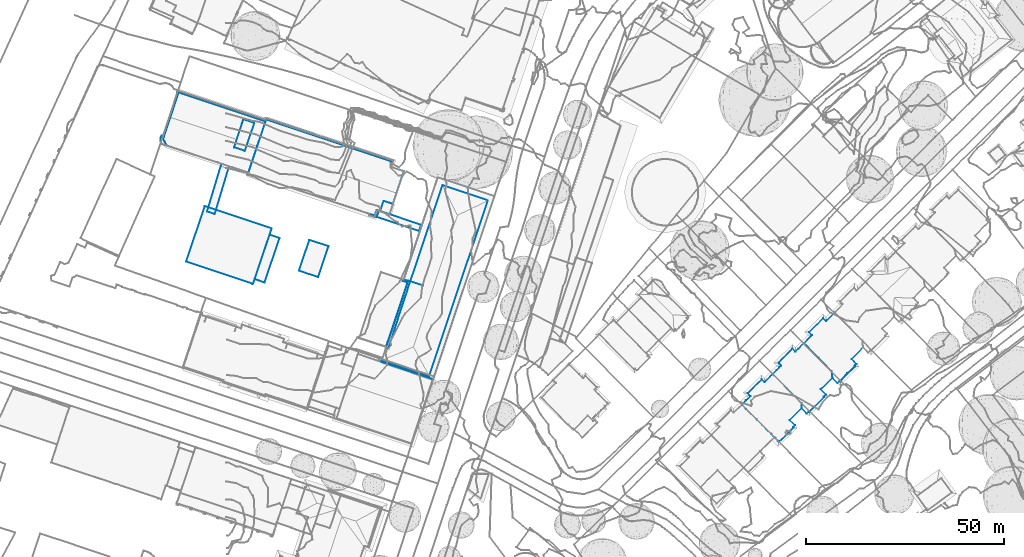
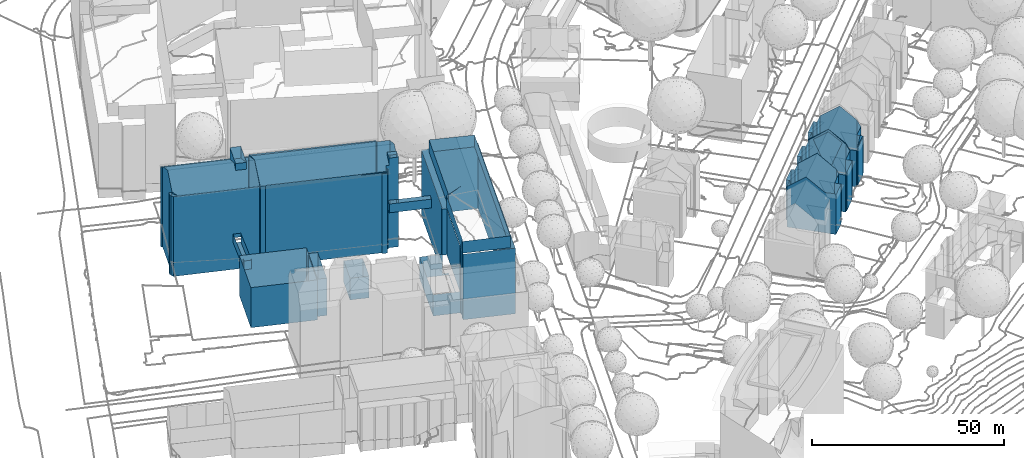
# Not in any storey, part 22 of 494: 8 walls.
"""IFC2X3 model written with IfcOpenShell, lengths in metres."""

from ifc_helpers import new_model, si_unit, frame, origin_with_axes, place, context, subcontext, project, faceted_brep, element, save


model = new_model("IFC2X3")

# Units and contexts
model_context = context("Model", 3, precision=1e-05, world=origin_with_axes())
body_context = subcontext(model_context, "Body", "Model", "MODEL_VIEW")
ifc_project = project(units=[si_unit("AREAUNIT", "SQUARE_METRE"), si_unit("LENGTHUNIT", "METRE")], contexts=[model_context])

# Walls
wall_1_placement = place(None, frame((-17.4142679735, 188.431416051, 525.0686), z_axis=(0.0, 0.0, 1.0), x_axis=(1.0, 0.0, 0.0)))
element("IfcWall", 1, at=wall_1_placement, Name="Wall 0", context=body_context, shape_type="Brep", body=[
    faceted_brep([(1.0260000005, -0.8104999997, 25.3406), (1.0260000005, -0.8104999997, 25.6706), (0.7120000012, -0.0760999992, 25.9806), (0.7120000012, -0.0760999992, 25.3406), (0.0, 0.0, 25.3406), (0.2430000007, 0.6953999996, 25.3406), (0.0, 0.0, 0.0), (0.0370000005, -0.7274999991, 25.3406), (0.0370000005, -0.7274999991, 0.0), (22.0100000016, -9.2381999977, 25.2986), (21.9780000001, -9.2274999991, 25.2986), (22.0100000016, -9.2381999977, 18.9742), (22.0100000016, -9.2381999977, 12.6488), (22.0100000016, -9.2381999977, 0.0), (21.9200000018, -9.2088999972, 25.2986), (21.9200000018, -9.2088999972, 15.8115), (21.9200000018, -9.2088999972, 6.3244), (21.9197999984, -9.2088999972, 0.0), (13.6959999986, -19.1014999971, 11.2299), (11.754999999, -18.5126999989, 11.2299), (13.6959999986, -19.1014999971, 8.4302), (17.3339999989, -7.0936999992, 11.2299), (17.3339999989, -7.0936999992, 8.4302), (15.4070000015, -6.4560000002, 11.2299), (11.754999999, -18.5126999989, 8.4302), (18.561999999, -2.2899999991, 29.9971), (19.2309999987, -0.2889999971, 28.9103), (18.561999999, -2.2899999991, 27.8094), (20.9279999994, 4.7832000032, 29.9972), (20.8229999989, 4.4698000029, 26.3665), (20.9279999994, 4.7832000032, 26.1975), (21.311999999, -3.2098999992, 29.9971), (21.311999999, -3.2098999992, 27.8074), (23.6779999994, 3.8633000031, 26.1965), (23.6779999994, 3.8633000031, 29.9972), (21.9809999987, -1.2088999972, 28.9083), (22.0329999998, 4.4131000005, 26.1975), (4.5980000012, 11.5391000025, 25.3406), (4.1920000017, 11.6749000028, 25.3406), (4.5980000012, 11.5391000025, 0.0), (26.6009999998, 5.0479000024, 0.0), (26.6009999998, 5.0479000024, 11.068), (26.7699999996, 4.9922000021, 25.2986), (26.7701000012, 4.9923, 12.6488), (26.7701000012, 4.9923, 18.9742), (26.7699999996, 4.9922000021, 6.3244), (26.7699999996, 4.9922000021, 0.0), (4.3370000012, 12.1456000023, 0.0), (4.3370000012, 12.1456000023, 25.3406), (4.4739999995, 12.0997000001, 0.0), (4.4739999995, 12.0996000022, 25.3406), (4.1920000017, 11.6749000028, 0.0), (4.438000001, 11.9902999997, 0.0), (4.5980000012, 11.5391000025, 25.5765), (26.5080000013, 4.2090000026, 25.5726), (1.2349999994, -1.1053999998, 25.3406), (1.5100000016, -1.4959999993, 25.3766), (1.2349999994, -1.1053999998, 25.5606), (0.6290000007, 0.5665000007, 25.3406), (0.2430000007, 0.6953999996, 0.0), (0.8969999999, 0.4776000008, 0.0), (0.6290000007, 0.5665000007, 0.0), (0.8969999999, 0.4776000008, 25.3406), (0.3359999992, -1.4696999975, 0.0), (0.3359999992, -1.4696999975, 25.3406), (0.125, -0.9461999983, 0.0), (0.125, -0.9461999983, 25.3406), (0.8969999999, 0.4776000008, 26.2815), (2.512000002, 5.3057000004, 28.9223), (2.512000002, 5.3057000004, 0.0), (22.0029999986, -8.9588999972, 25.2986), (22.1000000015, -8.6708999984, 0.0), (22.0029999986, -8.9608999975, 0.0), (22.1000000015, -8.6708999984, 25.3396), (26.5040000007, 4.755900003, 25.2986), (26.4719999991, 4.6592000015, 25.3076), (26.6009999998, 5.0479000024, 25.2986), (26.4719999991, 4.6592000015, 0.0), (21.7230000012, 6.2393000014, 0.0), (4.438000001, 11.9902999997, 25.3406), (21.7230000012, 6.2393000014, 25.3076), (26.6739999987, 4.7041000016, 25.2986), (26.5080000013, 4.2090000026, 25.3406), (24.4219999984, -2.0253999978, 28.9062), (26.5080000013, 4.2090000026, 0.0), (24.4219999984, -2.0252999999, 0.0), (26.6739999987, 4.7041000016, 0.0), (22.2760000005, -8.4432999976, 25.3766), (22.0929999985, -8.9891999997, 25.2986), (22.2760000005, -8.4432999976, 0.0), (22.0929999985, -8.9891999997, 0.0), (12.7789999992, -5.5868999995, 25.3346), (12.7789999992, -5.5868999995, 0.0), (15.4070000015, -6.4560000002, 8.4302), (1.3909999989, -1.8182999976, 0.0), (1.9299999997, -1.9969999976, 25.3616), (1.3909999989, -1.8182999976, 25.3626), (1.2199999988, -1.7616999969, 25.3406), (1.2199999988, -1.7616999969, 0.0)], [[[0, 1, 2]], [[2, 3, 0]], [[4, 5, 6]], [[7, 4, 8]], [[9, 10, 11]], [[12, 10, 13]], [[14, 15, 10]], [[16, 10, 15]], [[16, 17, 10]], [[10, 17, 13]], [[18, 19, 20]], [[21, 18, 22]], [[19, 23, 24]], [[25, 26, 27]], [[26, 25, 28]], [[29, 28, 30]], [[28, 29, 26]], [[31, 27, 32]], [[33, 34, 35]], [[35, 31, 32]], [[31, 35, 34]], [[30, 28, 36]], [[36, 34, 33]], [[34, 36, 28]], [[37, 38, 39]], [[40, 41, 42]], [[43, 40, 44]], [[45, 46, 40]], [[47, 48, 49]], [[50, 49, 48]], [[38, 47, 51]], [[47, 38, 48]], [[52, 49, 50]], [[53, 54, 37]], [[55, 56, 57]], [[1, 0, 55]], [[1, 55, 57]], [[5, 58, 59]], [[60, 61, 62]], [[63, 64, 65]], [[7, 8, 66]], [[67, 68, 62]], [[67, 3, 2]], [[3, 67, 62]], [[68, 60, 62]], [[37, 60, 68]], [[37, 69, 60]], [[69, 37, 39]], [[37, 68, 53]], [[14, 70, 15]], [[15, 71, 16]], [[17, 16, 72]], [[73, 71, 15]], [[15, 70, 73]], [[72, 16, 71]], [[74, 41, 75]], [[41, 74, 76]], [[77, 41, 40]], [[41, 77, 75]], [[78, 52, 79]], [[80, 75, 78]], [[77, 78, 75]], [[78, 79, 80]], [[44, 42, 81]], [[82, 54, 83]], [[81, 82, 44]], [[43, 44, 83]], [[84, 45, 85]], [[86, 46, 45]], [[84, 86, 45]], [[85, 45, 43]], [[83, 44, 82]], [[83, 87, 11]], [[88, 9, 11]], [[88, 11, 87]], [[83, 11, 12]], [[89, 85, 12]], [[90, 12, 13]], [[12, 90, 89]], [[85, 83, 12]], [[83, 85, 43]], [[21, 91, 23]], [[91, 21, 73]], [[73, 21, 71]], [[71, 22, 92]], [[22, 71, 21]], [[93, 92, 22]], [[94, 92, 93]], [[93, 23, 94]], [[95, 96, 97]], [[64, 63, 97]], [[95, 97, 94]], [[95, 23, 91]], [[95, 94, 23]], [[94, 97, 98]], [[5, 59, 6]], [[4, 6, 8]], [[12, 11, 10]], [[19, 24, 20]], [[18, 20, 22]], [[23, 93, 24]], [[25, 27, 31]], [[38, 51, 39]], [[76, 42, 41]], [[40, 42, 44]], [[43, 45, 40]], [[50, 79, 52]], [[54, 82, 37]], [[58, 61, 59]], [[61, 58, 62]], [[64, 66, 65]], [[8, 65, 66]], [[63, 98, 97]]]),
])
wall_2_placement = place(None, frame((-10.9342679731, 157.2918160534, 524.6136), z_axis=(0.0, 0.0, 1.0), x_axis=(1.0, 0.0, 0.0)))
element("IfcWall", 2, at=wall_2_placement, Name="Wall 0", context=body_context, shape_type="Brep", body=[
    faceted_brep([(21.2219999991, 6.7558999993, 12.0449), (23.5460000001, 5.9354999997, 12.0449), (21.2219999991, 6.7558999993, 0.176), (21.2390000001, 6.8037, 12.0449), (21.2390000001, 6.8037, 0.176), (21.0749999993, 6.8594000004, 12.0449), (21.0749999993, 6.8594000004, 0.176), (19.7899999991, -5.2871000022, 12.0449), (23.5460000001, 5.9354999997, 0.176), (17.2980000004, -4.4092000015, 12.0449), (17.2980000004, -4.4092000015, 12.7548), (16.8500000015, -5.6377000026, 12.7548), (16.8500000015, -5.6377000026, 0.0), (17.2980000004, -4.4092000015, 0.176), (17.2980000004, -4.4092000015, 0.0), (4.6970000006, 14.0351999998, 12.7548), (21.5859999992, 8.3838, 12.7548), (4.6970000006, 14.0351999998, 0.0001), (0.0, 0.0, 12.7548), (0.0, 0.0, 0.0), (19.7899999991, -5.2871000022, 0.176), (21.5859999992, 8.3838, 0.0)], [[[0, 1, 2]], [[3, 0, 4]], [[5, 3, 6]], [[1, 7, 8]], [[9, 10, 11]], [[9, 12, 13]], [[13, 12, 14]], [[15, 16, 17]], [[18, 15, 19]], [[11, 18, 12]], [[9, 20, 7]], [[16, 5, 21]], [[5, 16, 10]], [[21, 6, 14]], [[10, 9, 5]], [[13, 14, 6]], [[1, 8, 2]], [[0, 2, 4]], [[3, 4, 6]], [[7, 20, 8]], [[11, 12, 9]], [[16, 21, 17]], [[15, 17, 19]], [[18, 19, 12]], [[13, 20, 9]], [[5, 6, 21]]]),
])
wall_3_placement = place(None, frame((4.678732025, 179.4422160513, 524.9256), z_axis=(0.0, 0.0, 1.0), x_axis=(1.0, 0.0, 0.0)))
element("IfcWall", 3, at=wall_3_placement, Name="Wall 0", context=body_context, shape_type="Brep", body=[
    faceted_brep([(43.6950000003, -12.8622999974, 15.3225), (43.1650000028, -14.4452999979, 15.3225), (43.6950000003, -12.8622999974, 12.5228), (32.5140000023, -10.8808999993, 15.3225), (43.1650000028, -14.4452999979, 12.5228), (36.6060000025, -7.6074000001, 28.7292), (35.7380000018, -10.1992000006, 15.3225), (36.6060000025, -7.6074000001, 0.238), (35.7380000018, -10.1992000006, 28.7292), (35.7380000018, -10.1992000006, 12.5228), (35.7380000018, -10.1992000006, 0.238), (36.1120000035, 1.7266000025, 25.3996), (36.1120000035, 1.7266000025, 26.2385), (39.3370000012, 0.6474000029, 26.2385), (36.1120000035, 1.7266000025, 1.0749), (39.3370000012, 0.6474000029, 0.0), (36.1120000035, 1.7266000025, 0.0), (36.7360000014, 3.3368999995, 25.3996), (36.2010000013, 1.7187000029, 25.3996), (36.7360000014, 3.3368999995, 1.0749), (36.6740000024, 1.5516999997, 25.3996), (36.6740000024, 1.5516999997, 1.0749), (36.2010000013, 1.7187000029, 1.0749), (4.6790000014, 13.9805000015, 19.3382), (12.143000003, 11.5, 25.4156), (4.6790000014, 13.9805000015, 13.2498), (4.6790000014, 13.9805000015, 7.1623), (11.4680000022, 11.7236000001, 1.0749), (4.6790000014, 13.9805000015, 1.0749), (23.1359999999, 7.8456999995, 25.3996), (36.5380000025, 3.0, 25.3996), (36.5380000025, 3.0, 25.7095), (36.5380000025, 3.0, 1.0749), (36.5380000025, 3.0, 0.0), (4.5810000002, 13.6933000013, 25.9056), (4.5810000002, 13.6933000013, 25.4416), (4.5810000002, 13.6933000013, 1.0749), (4.5810000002, 13.6933000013, 0.0), (36.5780000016, -7.5986000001, 27.7033), (34.2250000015, -6.811499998, 27.7033), (34.2250000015, -6.811499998, 28.7292), (36.5780000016, -7.5986000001, 0.238), (34.2250000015, -6.811499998, 0.0), (36.5780000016, -7.5986000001, 0.0), (1.3440000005, -0.3779000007, 25.7406), (1.3570000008, -0.3407999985, 12.8788), (1.3570000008, -0.3407999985, 19.3192), (1.3570000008, -0.3407999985, 6.4094), (1.3440000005, -0.3779000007, 0.0), (1.3570000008, -0.3407999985, 0.0), (1.325000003, -0.4375, 25.7096), (1.325000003, -0.4375, 0.0), (0.0, 0.0, 0.0), (0.0, 0.0, 25.7096), (30.7270000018, -10.1532999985, -0.007), (30.6080000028, -10.5058999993, -0.007), (30.6080000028, -10.5058999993, 25.4025), (31.9560000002, -10.9550999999, -0.007), (31.9560000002, -10.9550999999, 25.4005), (32.5310000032, -9.2372999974, 25.4005), (32.5310000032, -9.2372999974, -0.007), (33.0109999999, -9.3974999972, 12.5228), (33.0109999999, -9.3974999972, 15.3225), (33.0109999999, -9.3974999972, -0.007), (33.0109999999, -9.3974999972, 25.3995), (32.0090000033, -10.5331999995, 25.7095), (22.4830000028, -7.3983999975, 25.4126), (32.0090000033, -10.5331999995, 25.3995), (32.4850000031, -9.1112999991, 25.3995), (32.4850000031, -9.1112999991, 26.4644), (32.5140000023, -10.8808999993, 12.5228), (33.3580000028, -9.4032999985, 26.4644), (33.3580000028, -9.4032999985, 28.7292), (34.2250000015, -6.811499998, 0.238), (33.3580000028, -9.4032999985, 0.0), (33.3580000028, -9.4032999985, 0.238), (33.0440000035, -9.2987999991, 12.5228), (33.0440000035, -9.2987999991, 0.0), (33.0440000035, -9.2987999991, 25.3995), (33.0440000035, -9.2987999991, 15.3225), (37.512000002, -4.8085999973, 0.0), (37.512000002, -4.8085999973, 29.0332), (21.8880000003, 8.2607000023, 1.0749), (35.3289999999, 3.7930000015, 1.0749), (35.3289999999, 3.7930000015, 25.3996), (0.1830000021, 0.5459000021, 0.0), (2.3289999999, 6.9638999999, 0.0), (0.1830000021, 0.5459000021, 25.9695), (2.3289999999, 6.9638999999, 29.0492), (4.6790000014, 13.9805000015, 25.4256), (30.7270000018, -10.1532999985, 12.6978), (30.7270000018, -10.1532999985, 25.4015), (22.4830000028, -7.3983999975, 0.0), (2.1290000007, -0.5986000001, 25.7586), (1.3570000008, -0.3407999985, 25.7586), (22.4830000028, -7.3983999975, 25.7095)], [[[0, 1, 2]], [[1, 3, 4]], [[5, 6, 7]], [[6, 5, 8]], [[9, 10, 7]], [[6, 0, 9]], [[11, 12, 13]], [[11, 13, 14]], [[14, 15, 16]], [[17, 18, 19]], [[20, 11, 21]], [[18, 20, 22]], [[23, 24, 25]], [[26, 27, 28]], [[24, 29, 27]], [[30, 31, 12]], [[12, 11, 30]], [[32, 14, 33]], [[34, 31, 35]], [[36, 32, 37]], [[38, 39, 40]], [[38, 5, 7]], [[5, 38, 40]], [[38, 7, 41]], [[41, 42, 43]], [[44, 45, 46]], [[45, 44, 47]], [[44, 48, 47]], [[47, 48, 49]], [[48, 50, 51]], [[52, 50, 53]], [[52, 51, 50]], [[54, 55, 56]], [[57, 58, 55]], [[56, 55, 58]], [[59, 57, 60]], [[59, 58, 57]], [[61, 62, 59]], [[63, 61, 60]], [[64, 59, 62]], [[65, 66, 67]], [[68, 69, 67]], [[65, 67, 69]], [[3, 61, 70]], [[71, 72, 39]], [[40, 39, 72]], [[42, 73, 74]], [[75, 74, 73]], [[76, 61, 77]], [[78, 62, 79]], [[10, 9, 75]], [[9, 76, 75]], [[75, 77, 74]], [[77, 75, 76]], [[8, 72, 71]], [[6, 71, 79]], [[71, 6, 8]], [[78, 69, 68]], [[69, 78, 71]], [[78, 79, 71]], [[80, 41, 43]], [[13, 80, 15]], [[13, 81, 38]], [[38, 41, 13]], [[13, 41, 80]], [[82, 29, 83]], [[19, 83, 17]], [[83, 29, 84]], [[85, 52, 53]], [[25, 86, 53]], [[85, 53, 86]], [[36, 37, 86]], [[86, 26, 36]], [[25, 53, 87]], [[88, 35, 23]], [[35, 88, 34]], [[35, 89, 23]], [[36, 26, 28]], [[25, 87, 23]], [[25, 26, 86]], [[88, 23, 87]], [[90, 91, 66]], [[90, 92, 54]], [[45, 92, 90]], [[90, 66, 45]], [[93, 46, 66]], [[94, 46, 93]], [[46, 45, 66]], [[49, 92, 47]], [[45, 47, 92]], [[93, 66, 95]], [[1, 4, 2]], [[3, 70, 4]], [[6, 9, 7]], [[0, 2, 9]], [[13, 15, 14]], [[18, 22, 19]], [[11, 14, 21]], [[20, 21, 22]], [[27, 29, 82]], [[89, 24, 23]], [[24, 27, 25]], [[26, 25, 27]], [[14, 16, 33]], [[31, 30, 35]], [[32, 33, 37]], [[73, 42, 41]], [[46, 94, 44]], [[50, 48, 44]], [[56, 90, 54]], [[90, 56, 91]], [[61, 59, 60]], [[95, 66, 65]], [[62, 61, 3]], [[61, 63, 77]], [[64, 62, 78]], [[83, 84, 17]]]),
])
wall_4_placement = place(None, frame((32.7697320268, 138.0096160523, 524.7246), z_axis=(0.0, 0.0, 1.0), x_axis=(1.0, 0.0, 0.0)))
element("IfcWall", 4, at=wall_4_placement, Name="Wall 0", context=body_context, shape_type="Brep", body=[
    faceted_brep([(19.8390000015, 40.557599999, 21.3649), (34.1330000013, 35.7822000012, 21.3649), (19.8390000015, 40.557599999, 0.5129), (10.9439999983, 14.4228000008, 21.3649), (11.0590000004, 14.7666000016, 21.3649), (10.9439999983, 14.4228000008, 6.7613), (12.1739999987, 14.0106999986, 21.3649), (12.1739999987, 14.0106999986, 6.7613), (6.7419999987, -2.2226999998, 21.3649), (6.7419999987, -2.2226999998, 6.7613), (21.006000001, 38.5467999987, 25.2756), (32.4679999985, 34.7118999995, 25.1146), (21.006000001, 38.5467999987, 21.3649), (17.6440000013, -9.5909000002, 25.1145), (5.6229999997, -5.5694000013, 21.3649), (17.6440000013, -9.5909000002, 21.3649), (0.0, 0.0, 6.7613), (5.4600000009, 16.6367000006, 6.7613), (0.0, 0.0, 0.0), (7.3539999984, -2.6719000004, 0.5129), (6.7589999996, -2.4785000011, 0.5129), (7.3539999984, -2.6719000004, 0.0), (12.8390000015, 14.2743999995, 0.5129), (12.8390000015, 14.2743999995, 0.0), (11.2410000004, 14.7910000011, 0.5129), (11.2410000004, 14.7910000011, 0.0), (11.2149999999, 14.7138000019, 0.0), (11.2149999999, 14.7138000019, 21.3649), (5.4600000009, 16.6367000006, 0.0), (11.0590000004, 14.7666000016, 6.7613), (6.8339999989, -2.2529999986, 21.3649), (6.8339999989, -2.2529999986, 0.0), (5.8159999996, -4.9932000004, 21.3649), (5.8150000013, -4.9932000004, 25.1145), (5.9189999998, -5.0273999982, 25.1855), (5.8159999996, -4.9932000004, 0.5129), (5.9189999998, -5.0273999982, 0.5129), (18.6719999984, -10.4081999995, 0.5129), (18.6719999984, -10.4081999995, 21.3649), (18.5610000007, -10.371100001, 0.5129), (5.4809999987, -5.9932000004, 21.3649), (5.4809999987, -5.9932000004, 0.5129), (18.8999999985, -9.7276000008, 21.3649), (34.1330000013, 35.7822000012, 0.5129), (18.8999999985, -9.7276000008, 0.5129), (12.8979999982, 14.317400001, 21.3649), (12.3900000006, 14.4882999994, 21.3649), (12.8979999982, 14.317400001, 25.2755), (12.3900000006, 14.4882999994, 25.1496), (12.8979999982, 14.317400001, 25.4945), (16.256000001, 13.1953000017, 27.7763), (5.6220000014, -5.5694000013, 25.1145), (17.7280000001, -9.3409000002, 25.1145), (32.4679999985, 34.7118999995, 21.3649), (17.7280000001, -9.3409000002, 21.3649), (18.3990000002, 30.7558000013, 25.2756), (18.3990000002, 30.7558000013, 21.3649), (6.7589999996, -2.4785000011, 0.0), (6.7600000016, -2.4765999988, 25.1775)], [[[0, 1, 2]], [[3, 4, 5]], [[6, 3, 7]], [[8, 6, 9]], [[10, 11, 12]], [[13, 14, 15]], [[16, 17, 18]], [[19, 20, 21]], [[22, 19, 23]], [[24, 22, 25]], [[26, 24, 25]], [[24, 26, 27]], [[24, 0, 2]], [[28, 17, 29]], [[29, 27, 26]], [[27, 29, 4]], [[29, 26, 28]], [[30, 9, 31]], [[9, 30, 8]], [[31, 9, 18]], [[16, 18, 9]], [[32, 33, 34]], [[35, 32, 36]], [[36, 32, 34]], [[37, 38, 39]], [[40, 41, 38]], [[1, 42, 43]], [[37, 44, 38]], [[45, 46, 47]], [[47, 46, 48]], [[47, 49, 50]], [[49, 47, 48]], [[14, 51, 33]], [[41, 40, 14]], [[35, 14, 32]], [[41, 14, 35]], [[32, 14, 33]], [[11, 52, 53]], [[15, 54, 13]], [[47, 55, 45]], [[12, 56, 10]], [[36, 34, 30]], [[30, 20, 36]], [[57, 20, 31]], [[30, 34, 58]], [[58, 48, 30]], [[31, 20, 30]], [[46, 30, 48]], [[1, 43, 2]], [[4, 29, 5]], [[3, 5, 7]], [[6, 7, 9]], [[11, 53, 12]], [[51, 14, 13]], [[17, 28, 18]], [[20, 57, 21]], [[19, 21, 23]], [[22, 23, 25]], [[27, 0, 24]], [[41, 39, 38]], [[42, 44, 43]], [[44, 42, 38]], [[52, 54, 53]], [[54, 52, 13]], [[55, 56, 45]], [[56, 55, 10]]]),
])
wall_5_placement = place(None, frame((17.559732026, 155.003716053, 524.8416), z_axis=(0.0, 0.0, 1.0), x_axis=(1.0, 0.0, 0.0)))
element("IfcWall", 5, at=wall_5_placement, Name="Wall 0", context=body_context, shape_type="Brep", body=[
    faceted_brep([(2.5899999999, 7.7705000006, 6.9053), (7.4270000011, 6.1679999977, 6.9053), (2.5899999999, 7.7705000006, 0.0), (0.0, 0.0, 6.9053), (0.0, 0.0, 0.0), (4.8289999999, -1.629900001, 6.9053), (4.8289999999, -1.629900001, 0.0), (7.4270000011, 6.1679999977, 0.0)], [[[0, 1, 2]], [[3, 0, 4]], [[5, 3, 6]], [[1, 5, 7]], [[1, 7, 2]], [[0, 2, 4]], [[3, 4, 6]], [[5, 6, 7]]]),
])
wall_6_placement = place(None, frame((145.0367320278, 136.7889160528, 530.3359), z_axis=(0.0, 0.0, 1.0), x_axis=(1.0, 0.0, 0.0)))
element("IfcWall", 6, at=wall_6_placement, Name="Wall 0", context=body_context, shape_type="Brep", body=[
    faceted_brep([(14.7809999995, 0.5907999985, 12.5908), (14.8420000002, -0.4834000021, 11.9409), (14.7809999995, 0.5907999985, 0.0), (14.9709999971, -1.1367999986, 11.5389), (12.0219999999, -4.0478999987, 11.5389), (14.9709999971, -1.1367999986, 0.0), (14.8420000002, -0.4834000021, 0.0), (5.5709999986, 5.5361000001, 6.8474), (5.5709999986, 5.5361000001, 0.0), (4.8559999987, 6.2558000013, 12.1719), (4.8559999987, 6.2558000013, 0.0), (7.1789999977, -8.8291000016, 11.5389), (7.0009999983, -7.0918000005, 0.0), (7.1789999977, -8.8291000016, 0.0), (2.0229999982, 2.0097000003, 12.1838), (1.3139999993, 2.7236000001, 0.0), (2.0229999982, 2.0097000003, 7.6143), (2.0229999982, 2.0097000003, 0.0), (1.3139999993, 2.7236000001, 12.1849), (13.2839999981, -5.3251999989, 11.5389), (13.1219999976, -5.4864000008, 11.7209), (13.2839999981, -5.3251999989, 0.0), (12.9549999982, -5.6534000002, 2.8107), (12.7569999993, -5.8506000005, 0.0), (12.0219999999, -4.0478999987, 0.0), (12.7619999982, -5.8594000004, 0.0), (12.7889999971, -5.8858000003, 12.1108), (12.8619999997, -5.9571000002, 9.0081), (12.8619999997, -5.9571000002, 0.0), (12.7619999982, -5.8594000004, 12.1358), (9.0729999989, -9.7197999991, 0.0), (8.9679999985, -9.6143000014, 11.9329), (8.9679999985, -9.6143000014, 0.0), (9.0729999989, -9.7197999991, 2.9827), (9.0729999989, -9.7197999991, 8.9491), (8.4560000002, -10.1220999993, 11.5389), (8.4560000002, -10.1220999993, 0.0), (12.7569999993, -5.8506000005, 12.1328), (7.7559999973, 7.7080000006, 0.0), (7.7559999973, 7.7080000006, 12.1309), (11.4719999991, 3.942400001, 0.0), (11.4719999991, 3.9422999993, 16.2305), (5.5709999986, 5.5361000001, 12.1729), (5.5989999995, 5.5634000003, 12.1399), (7.6840000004, 7.6356999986, 12.1319), (7.6840000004, 7.6356999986, 0.0), (7.0009999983, -7.0918000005, 12.5908), (3.6909999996, -3.7382999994, 0.0), (0.0, 0.0, 12.1509), (0.0, 0.0, 0.0), (3.6909999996, -3.7382999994, 16.1655), (1.2390000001, 1.2303999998, 12.1459), (1.993999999, 1.9803999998, 12.1519), (10.9100000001, -7.6895000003, 12.1358), (10.9100000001, -7.6895000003, 14.2096), (9.2289999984, -9.3487000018, 12.1358), (9.2019999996, -9.5927999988, 12.0318), (12.8619999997, -5.9571000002, 12.0418), (9.0729999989, -9.7197999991, 11.9329), (9.2779999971, -9.5175999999, 0.0), (12.9159999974, -5.691399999, 11.9529)], [[[0, 1, 2]], [[3, 4, 5]], [[1, 3, 6]], [[7, 8, 9]], [[9, 8, 10]], [[11, 12, 13]], [[14, 15, 16]], [[16, 15, 17]], [[18, 10, 15]], [[19, 20, 21]], [[21, 20, 22]], [[22, 23, 21]], [[4, 21, 24]], [[21, 4, 19]], [[25, 26, 27]], [[25, 27, 28]], [[25, 29, 26]], [[30, 31, 32]], [[31, 33, 34]], [[35, 13, 36]], [[13, 35, 11]], [[31, 35, 32]], [[37, 29, 23]], [[38, 39, 40]], [[0, 39, 41]], [[0, 2, 40]], [[0, 40, 39]], [[42, 43, 7]], [[44, 7, 43]], [[45, 44, 39]], [[45, 39, 38]], [[8, 7, 45]], [[7, 44, 45]], [[12, 46, 47]], [[47, 46, 48]], [[47, 48, 49]], [[48, 46, 50]], [[49, 16, 17]], [[16, 49, 48]], [[48, 51, 16]], [[16, 52, 14]], [[52, 16, 51]], [[53, 29, 54]], [[54, 55, 53]], [[34, 27, 56]], [[57, 56, 27]], [[27, 33, 28]], [[34, 56, 58]], [[28, 33, 59]], [[30, 59, 33]], [[33, 27, 34]], [[1, 6, 2]], [[4, 24, 5]], [[3, 5, 6]], [[42, 7, 9]], [[46, 12, 11]], [[14, 18, 15]], [[9, 10, 18]], [[20, 60, 22]], [[37, 23, 60]], [[22, 60, 23]], [[27, 26, 57]], [[58, 31, 34]], [[31, 30, 33]], [[35, 36, 32]], [[29, 25, 23]]]),
])
wall_7_placement = place(None, frame((129.3807320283, 121.2410160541, 529.389), z_axis=(0.0, 0.0, 1.0), x_axis=(1.0, 0.0, 0.0)))
element("IfcWall", 7, at=wall_7_placement, Name="Wall 0", context=body_context, shape_type="Brep", body=[
    faceted_brep([(9.3859999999, -9.4131000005, 0.0), (9.186999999, -9.2129000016, 12.8897), (9.1939999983, -9.2207000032, 0.0), (9.3859999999, -9.4131000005, 12.6598), (10.9439999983, -7.8652000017, 0.0), (12.9780000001, -5.8447000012, 0.0), (12.9469999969, -5.875, 12.6728), (12.9780000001, -5.8447000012, 12.6408), (12.8719999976, -5.7383000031, 12.6418), (12.8719999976, -5.7383000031, 0.0), (13.3809999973, -5.2334000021, 0.0), (13.3809999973, -5.2334000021, 12.1118), (12.0719999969, -3.9072000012, 12.1118), (12.0719999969, -3.9072000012, 0.0), (8.8649999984, -8.8906000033, 4.0266), (9.061999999, -9.0879000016, 12.8887), (8.4499999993, -8.4756000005, 0.0), (8.4489999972, -8.4746000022, 12.8858), (7.9459999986, -7.9707000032, 3.1867), (7.800999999, -7.8242000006, 12.8408), (7.4229999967, -7.4453000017, 0.0), (7.4399999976, -7.4619000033, 12.8158), (7.368999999, -7.3916000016, 0.0), (7.3539999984, -7.376000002, 12.8128), (7.3149999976, -7.3369000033, 12.8138), (11.436999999, 4.0, 16.8384), (15.1030000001, 0.2861999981, 12.7888), (11.436999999, 4.0, 0.0), (15.0709999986, -0.9463, 12.1058), (15.0709999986, -0.9463, 0.0), (15.1030000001, 0.2861999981, 0.0), (6.1779999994, -6.1982000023, 3.5536), (5.2979999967, -5.3164000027, 0.0), (5.8539999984, -5.8721000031, 14.4236), (3.6739999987, -3.688500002, 16.8244), (3.6529999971, -3.6670000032, 0.0), (4.6719999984, -4.6894000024, 15.7255), (2.0789999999, 2.1620999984, 12.7268), (2.0779999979, 2.1630999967, 0.0), (2.129999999, 2.1093999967, 12.7838), (1.0649999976, 1.0546999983, 0.0), (0.0, 0.0, 0.0), (0.9789999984, 0.9696999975, 12.7858), (2.129999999, 2.1093999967, 0.0), (1.1019999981, -1.1103000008, 0.0), (1.1019999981, -1.1103000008, 14.0087), (1.7799999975, -1.7900000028, 14.7586), (6.1789999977, 6.1338, 0.0), (5.6769999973, 5.6347999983, 0.0), (5.6769999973, 5.6347999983, 12.7708), (7.7709999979, 7.7148999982, 12.7588), (7.7709999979, 7.7148999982, 0.0), (1.7569999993, 2.4853999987, 12.7258), (1.4139999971, 2.8310999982, 0.0), (1.4979999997, 2.9140999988, 12.8188), (3.2419999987, 4.6386999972, 12.8168), (1.4139999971, 2.8310999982, 12.7238), (1.4689999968, 2.8847999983, 0.0), (4.9139999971, 6.2929999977, 12.8148), (4.9139999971, 6.2929999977, 0.0), (4.9689999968, 6.3476999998, 0.0), (5.6549999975, 5.6562999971, 12.7468), (4.9689999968, 6.3476999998, 12.7498), (0.0, 0.0, 12.7878), (3.6619999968, -3.6767000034, 16.8384), (6.3359999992, 6.2900999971, 12.7688)], [[[0, 1, 2]], [[0, 3, 1]], [[4, 5, 6]], [[4, 3, 0]], [[3, 4, 6]], [[7, 5, 8]], [[8, 5, 9]], [[10, 8, 9]], [[11, 8, 10]], [[12, 11, 13]], [[11, 10, 13]], [[7, 6, 5]], [[14, 15, 16]], [[2, 1, 14]], [[15, 17, 16]], [[14, 16, 2]], [[18, 19, 20]], [[16, 17, 19]], [[16, 19, 18]], [[18, 20, 16]], [[20, 19, 21]], [[22, 23, 24]], [[25, 26, 27]], [[28, 13, 29]], [[26, 28, 30]], [[22, 31, 32]], [[31, 22, 24]], [[33, 31, 24]], [[34, 35, 36]], [[36, 35, 32]], [[37, 38, 39]], [[40, 41, 42]], [[40, 42, 43]], [[44, 45, 41]], [[45, 34, 46]], [[35, 34, 45]], [[35, 45, 44]], [[47, 48, 49]], [[50, 51, 47]], [[27, 50, 25]], [[27, 51, 50]], [[37, 52, 38]], [[52, 53, 38]], [[54, 55, 56]], [[55, 57, 56]], [[58, 59, 55]], [[55, 59, 57]], [[60, 61, 48]], [[62, 61, 60]], [[58, 62, 59]], [[15, 14, 1]], [[23, 20, 21]], [[22, 20, 23]], [[26, 30, 27]], [[12, 13, 28]], [[28, 29, 30]], [[33, 36, 31]], [[31, 36, 32]], [[61, 49, 48]], [[43, 39, 38]], [[42, 41, 63]], [[39, 43, 42]], [[63, 41, 45]], [[34, 64, 46]], [[49, 65, 47]], [[65, 50, 47]], [[53, 56, 57]], [[56, 53, 52]], [[62, 60, 59]]]),
])
wall_8_placement = place(None, frame((137.1517320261, 128.9559160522, 529.729), z_axis=(0.0, 0.0, 1.0), x_axis=(1.0, 0.0, 0.0)))
element("IfcWall", 8, at=wall_8_placement, Name="Wall 0", context=body_context, shape_type="Brep", body=[
    faceted_brep([(5.7239999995, 5.6865000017, 12.4198), (5.995000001, 5.9560000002, 12.4218), (5.6860000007, 5.6484000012, 0.0), (6.4880000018, 6.4453000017, 12.4258), (6.4840000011, 6.4404000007, 0.0), (7.7970000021, 7.746100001, 0.0), (7.8210000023, 7.7694999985, 12.4218), (7.8850000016, 7.8330000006, 0.0), (7.8850000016, 7.8330000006, 12.4218), (11.5760000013, 4.0947000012, 16.7724), (11.5760000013, 4.0947000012, 0.0), (0.0, 0.0, 0.0), (0.0, 0.0, 12.4478), (0.9160000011, 0.9111000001, 12.4438), (0.9400000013, 0.9345000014, 0.0), (3.6660000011, -3.7148999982, 16.7084), (3.6660000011, -3.7148999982, 0.0), (14.8859999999, 0.7412, 12.8677), (1.5529999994, 1.5439000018, 12.4368), (1.5460000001, 1.5370999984, 5.0485), (2.0360000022, 2.0234000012, 12.4318), (2.1350000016, 2.1220000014, 0.0), (2.1350000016, 2.1220000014, 12.5498), (1.745000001, 2.5146000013, 12.5488), (1.4470000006, 2.8143999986, 12.5478), (1.6730000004, 2.5879000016, 5.6854), (1.4270000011, 2.8348999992, 0.0), (5.6860000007, 5.6484000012, 12.4668), (4.9609999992, 6.3583999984, 0.0), (4.943, 6.3407999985, 12.5028), (4.9609999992, 6.3583999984, 12.4808), (1.427099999, 2.8348999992, 12.5238), (7.3000000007, -8.6611999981, 11.7658), (7.3320000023, -7.4287, 0.0), (7.3000000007, -8.6611999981, 0.0), (7.3320000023, -7.4287, 12.4488), (15.0639999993, -0.996100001, 11.7578), (12.1390000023, -3.8847999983, 11.7578), (15.0639999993, -0.996100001, 0.0), (14.8859999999, 0.7412, 0.0), (9.0729999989, -9.5078999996, 12.2938), (8.5989999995, -9.9794999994, 11.7608), (8.5989999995, -9.9794999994, 0.0), (9.0729999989, -9.5078000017, 0.0), (9.1790000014, -9.6143000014, 12.2938), (12.868999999, -5.7382999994, 0.0), (12.868999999, -5.7382999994, 12.3758), (12.9100000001, -5.7793000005, 12.3758), (12.9030000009, -5.7725000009, 0.0), (12.9750000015, -5.8438000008, 12.3048), (13.4239999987, -5.1875, 11.7578), (13.4239999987, -5.1875, 0.0), (12.1390000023, -3.8847999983, 0.0), (12.9750000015, -5.8438000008, 0.0), (9.1790000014, -9.6143000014, 0.0), (9.3619999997, -9.4327000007, 0.0), (12.0789999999, -6.7344000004, 12.3018), (9.319000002, -9.4756000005, 12.2938)], [[[0, 1, 2]], [[3, 4, 1]], [[1, 4, 2]], [[5, 6, 7]], [[7, 6, 8]], [[3, 6, 4]], [[7, 8, 9]], [[10, 7, 9]], [[11, 12, 13]], [[13, 14, 11]], [[15, 12, 16]], [[12, 11, 16]], [[9, 17, 10]], [[14, 18, 19]], [[18, 20, 19]], [[19, 21, 14]], [[22, 23, 21]], [[23, 24, 25]], [[25, 26, 21]], [[27, 2, 28]], [[29, 30, 28]], [[24, 31, 26]], [[29, 26, 31]], [[28, 26, 29]], [[32, 33, 34]], [[35, 16, 33]], [[36, 37, 38]], [[17, 36, 39]], [[40, 41, 42]], [[42, 41, 32]], [[34, 42, 32]], [[40, 43, 44]], [[40, 42, 43]], [[45, 46, 47]], [[48, 45, 47]], [[47, 49, 48]], [[50, 45, 51]], [[46, 45, 50]], [[37, 50, 52]], [[50, 51, 52]], [[49, 53, 48]], [[44, 54, 55]], [[55, 49, 56]], [[56, 57, 55]], [[6, 5, 4]], [[17, 39, 10]], [[13, 18, 14]], [[20, 21, 19]], [[23, 25, 21]], [[24, 26, 25]], [[22, 21, 20]], [[0, 2, 27]], [[28, 30, 27]], [[35, 33, 32]], [[15, 16, 35]], [[37, 52, 38]], [[36, 38, 39]], [[44, 43, 54]], [[57, 44, 55]], [[49, 55, 53]]]),
])

save(model, "model.ifc")
